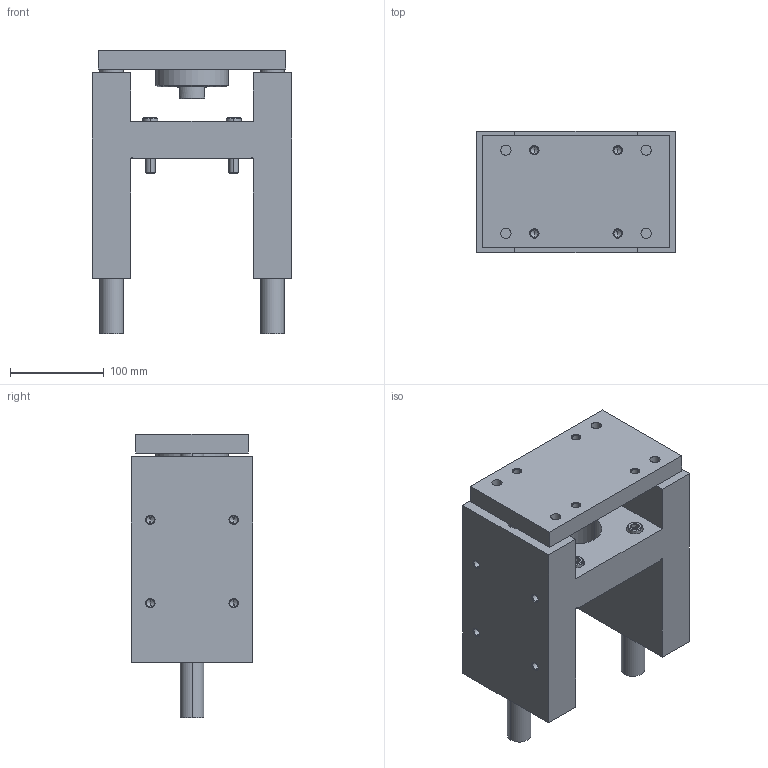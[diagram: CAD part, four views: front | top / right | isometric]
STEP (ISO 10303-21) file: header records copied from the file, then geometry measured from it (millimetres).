
FILE_DESCRIPTION (( 'STEP AP203' ), '1' );
FILE_NAME ('GB100-40.STEP', '2020-04-24T13:40:46', ( '' ), ( '' ), 'SwSTEP 2.0', 'SolidWorks 2019', '' );
FILE_SCHEMA (( 'CONFIG_CONTROL_DESIGN' ));
Length unit declared in the file: millimetre
Products named in the file (1): GB100-40
Bounding box: 213 x 130 x 303 mm (x, y, z)
Volume: 3531641.8 mm3; surface area: 381062.8 mm2
Topology: 6 solids, 6 shells, 329 faces, 728 edges, 412 vertices
Faces by surface type: cone 134, cylinder 98, plane 97
Entity records: 9631 total; most frequent: CARTESIAN_POINT 2242, DIRECTION 1662, ORIENTED_EDGE 1392, EDGE_CURVE 696, AXIS2_PLACEMENT_3D 664, VERTEX_POINT 412, EDGE_LOOP 392, CIRCLE 334
